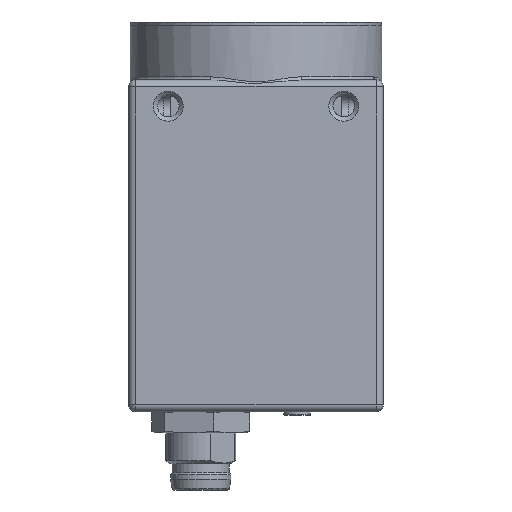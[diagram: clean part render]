
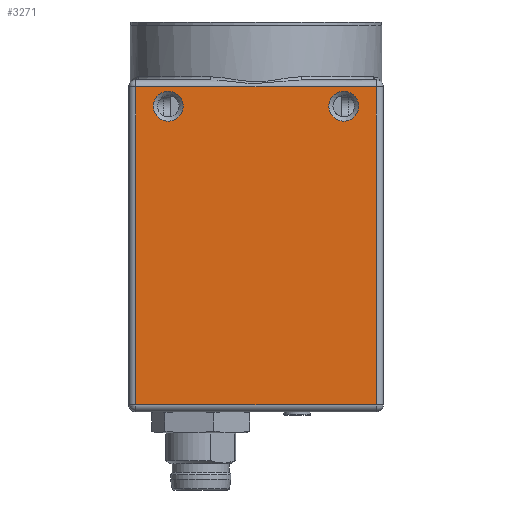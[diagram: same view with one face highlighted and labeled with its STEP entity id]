
A CAD part, left-side view. The second image highlights one B-rep face of the part: STEP entity #3271.
In plain terms, the highlighted planar face has unit normal (-1, 0, 0).
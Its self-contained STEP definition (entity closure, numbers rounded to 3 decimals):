
#3271 = ADVANCED_FACE( '', ( #8632, #8633, #8634 ), #8635, .T. );
#8632 = FACE_BOUND( '', #16668, .T. );
#8633 = FACE_BOUND( '', #16669, .T. );
#8634 = FACE_OUTER_BOUND( '', #16670, .T. );
#8635 = PLANE( '', #16671 );
#16668 = EDGE_LOOP( '', ( #27711 ) );
#16669 = EDGE_LOOP( '', ( #27712 ) );
#16670 = EDGE_LOOP( '', ( #27713, #27714, #27715, #27716 ) );
#16671 = AXIS2_PLACEMENT_3D( '', #27717, #27718, #27719 );
#27711 = ORIENTED_EDGE( '', *, *, #41837, .T. );
#27712 = ORIENTED_EDGE( '', *, *, #41838, .T. );
#27713 = ORIENTED_EDGE( '', *, *, #40891, .T. );
#27714 = ORIENTED_EDGE( '', *, *, #41839, .T. );
#27715 = ORIENTED_EDGE( '', *, *, #41840, .T. );
#27716 = ORIENTED_EDGE( '', *, *, #41841, .T. );
#27717 = CARTESIAN_POINT( '', ( -14.5, -14.5, 12.2 ) );
#27718 = DIRECTION( '', ( -1., 0., 0. ) );
#27719 = DIRECTION( '', ( 0., 0., 1. ) );
#40891 = EDGE_CURVE( '', #46693, #46694, #46695, .T. );
#41837 = EDGE_CURVE( '', #48235, #48235, #48236, .T. );
#41838 = EDGE_CURVE( '', #48237, #48237, #48238, .T. );
#41839 = EDGE_CURVE( '', #46694, #48239, #48240, .F. );
#41840 = EDGE_CURVE( '', #48239, #48241, #48242, .T. );
#41841 = EDGE_CURVE( '', #48241, #46693, #48243, .T. );
#46693 = VERTEX_POINT( '', #54900 );
#46694 = VERTEX_POINT( '', #54901 );
#46695 = LINE( '', #54902, #54903 );
#48235 = VERTEX_POINT( '', #57186 );
#48236 = CIRCLE( '', #57187, 1.7 );
#48237 = VERTEX_POINT( '', #57188 );
#48238 = CIRCLE( '', #57189, 1.7 );
#48239 = VERTEX_POINT( '', #57190 );
#48240 = LINE( '', #57191, #57192 );
#48241 = VERTEX_POINT( '', #57193 );
#48242 = LINE( '', #57194, #57195 );
#48243 = LINE( '', #57196, #57197 );
#54900 = CARTESIAN_POINT( '', ( -14.5, 13.7, -24.85 ) );
#54901 = CARTESIAN_POINT( '', ( -14.5, -13.7, -24.85 ) );
#54902 = CARTESIAN_POINT( '', ( -14.5, -14.5, -24.85 ) );
#54903 = VECTOR( '', #65676, 1000. );
#57186 = CARTESIAN_POINT( '', ( -14.5, -8.3, 9.2 ) );
#57187 = AXIS2_PLACEMENT_3D( '', #66758, #66759, #66760 );
#57188 = CARTESIAN_POINT( '', ( -14.5, 11.7, 9.2 ) );
#57189 = AXIS2_PLACEMENT_3D( '', #66761, #66762, #66763 );
#57190 = CARTESIAN_POINT( '', ( -14.5, -13.7, 11.4 ) );
#57191 = CARTESIAN_POINT( '', ( -14.5, -13.7, 12.2 ) );
#57192 = VECTOR( '', #66764, 1000. );
#57193 = CARTESIAN_POINT( '', ( -14.5, 13.7, 11.4 ) );
#57194 = CARTESIAN_POINT( '', ( -14.5, 14.5, 11.4 ) );
#57195 = VECTOR( '', #66765, 1000. );
#57196 = CARTESIAN_POINT( '', ( -14.5, 13.7, 12.2 ) );
#57197 = VECTOR( '', #66766, 1000. );
#65676 = DIRECTION( '', ( 0., -1., 0. ) );
#66758 = CARTESIAN_POINT( '', ( -14.5, -10., 9.2 ) );
#66759 = DIRECTION( '', ( 1., 0., 0. ) );
#66760 = DIRECTION( '', ( 0., 1., 0. ) );
#66761 = CARTESIAN_POINT( '', ( -14.5, 10., 9.2 ) );
#66762 = DIRECTION( '', ( 1., 0., 0. ) );
#66763 = DIRECTION( '', ( 0., 1., 0. ) );
#66764 = DIRECTION( '', ( 0., 0., -1. ) );
#66765 = DIRECTION( '', ( 0., 1., 0. ) );
#66766 = DIRECTION( '', ( 0., 0., -1. ) );
